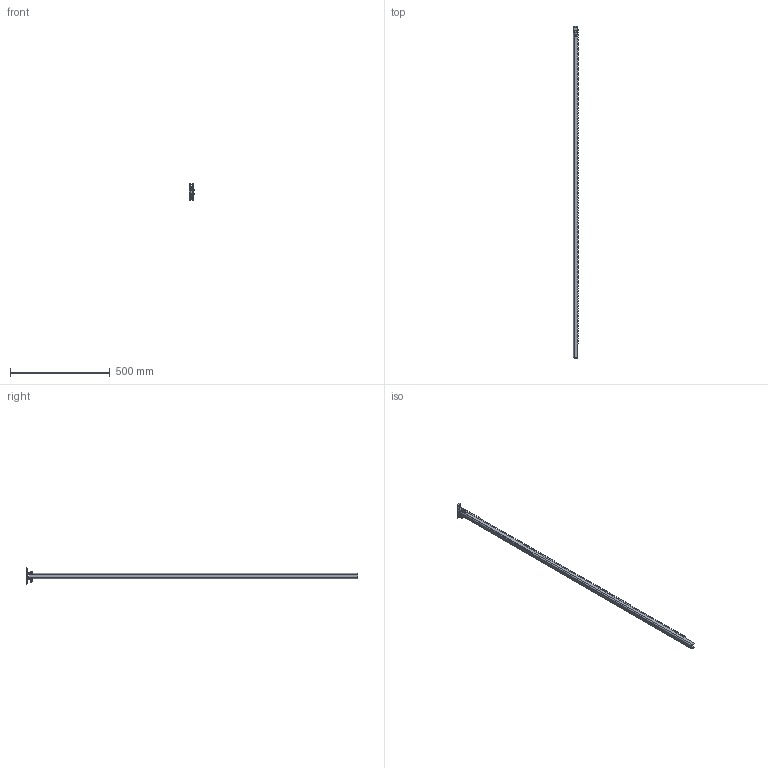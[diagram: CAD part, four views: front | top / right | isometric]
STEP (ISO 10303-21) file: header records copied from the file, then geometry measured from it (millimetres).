
FILE_DESCRIPTION (( 'STEP AP214' ), '1' );
FILE_NAME ('Zahnstange_10177212.STEP', '2018-12-11T09:47:50', ( '' ), ( '' ), 'SwSTEP 2.0', 'SolidWorks 2018', '' );
FILE_SCHEMA (( 'AUTOMOTIVE_DESIGN' ));
Length unit declared in the file: millimetre
Products named in the file (6): Zahnstange_10015273_Standard; Schraube_10148565_ISO 4017 - M6 x 50-N; Mutter_10001793_Standard; Zahnstange_10177212; Montageplatte_10148566_Standard; Montageplatte_10140229_Standard
Assembly tree (5 placements, depth 3):
  Zahnstange_10177212
    Montageplatte_10148566_Standard
      Montageplatte_10140229_Standard
      Schraube_10148565_ISO 4017 - M6 x 50-N
      Mutter_10001793_Standard
    Zahnstange_10015273_Standard
Bounding box: 30 x 1664 x 85 mm (x, y, z)
Volume: 346411.3 mm3; surface area: 249150.6 mm2
Topology: 4 solids, 4 shells, 1254 faces, 3674 edges, 2438 vertices
Faces by surface type: plane 1141, cylinder 87, cone 20, torus 6
Entity records: 41236 total; most frequent: CARTESIAN_POINT 7555, ORIENTED_EDGE 7348, DIRECTION 6374, EDGE_CURVE 3674, VECTOR 3428, LINE 3428, VERTEX_POINT 2438, AXIS2_PLACEMENT_3D 1473
